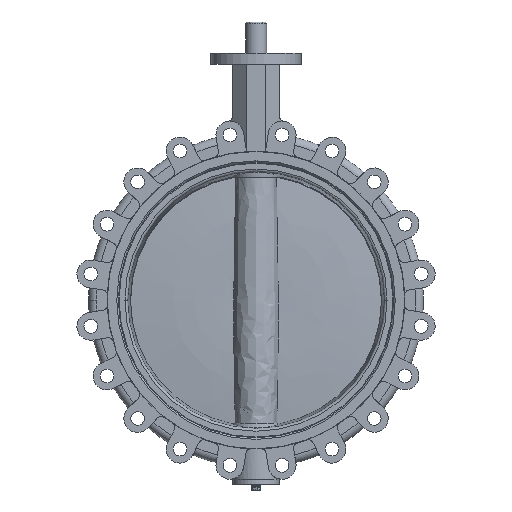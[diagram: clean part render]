
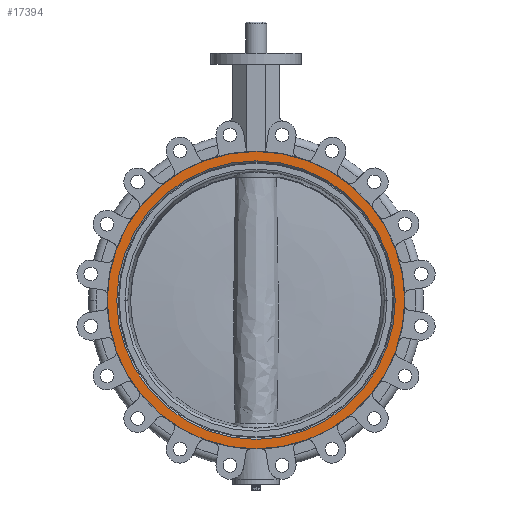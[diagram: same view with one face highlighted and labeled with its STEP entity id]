
A CAD part, left-side view. The second image highlights one B-rep face of the part: STEP entity #17394.
In plain terms, the highlighted planar face has unit normal (-1, 0, 0).
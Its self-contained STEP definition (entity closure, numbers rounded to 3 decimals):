
#818 = CYLINDRICAL_SURFACE('',#819,289.);
#819 = AXIS2_PLACEMENT_3D('',#820,#821,#822);
#820 = CARTESIAN_POINT('',(126.752,0.,
    0.));
#821 = DIRECTION('',(1.,0.,0.));
#822 = DIRECTION('',(0.,1.,0.));
#8719 = VERTEX_POINT('',#8720);
#8720 = CARTESIAN_POINT('',(-63.5,-270.55,0.));
#8727 = CONICAL_SURFACE('',#8728,270.55,0.785);
#8728 = AXIS2_PLACEMENT_3D('',#8729,#8730,#8731);
#8729 = CARTESIAN_POINT('',(-63.5,0.,0.)
  );
#8730 = DIRECTION('',(-1.,0.,0.));
#8731 = DIRECTION('',(0.,-1.,0.));
#8739 = CONICAL_SURFACE('',#8740,270.55,0.785);
#8740 = AXIS2_PLACEMENT_3D('',#8741,#8742,#8743);
#8741 = CARTESIAN_POINT('',(-63.5,0.,0.)
  );
#8742 = DIRECTION('',(-1.,0.,0.));
#8743 = DIRECTION('',(0.,-1.,0.));
#8751 = EDGE_CURVE('',#8719,#8752,#8754,.T.);
#8752 = VERTEX_POINT('',#8753);
#8753 = CARTESIAN_POINT('',(-63.5,270.55,0.));
#8754 = SURFACE_CURVE('',#8755,(#8760,#8767),.PCURVE_S1.);
#8755 = CIRCLE('',#8756,270.55);
#8756 = AXIS2_PLACEMENT_3D('',#8757,#8758,#8759);
#8757 = CARTESIAN_POINT('',(-63.5,0.,0.)
  );
#8758 = DIRECTION('',(1.,0.,0.));
#8759 = DIRECTION('',(0.,1.,0.));
#8760 = PCURVE('',#8727,#8761);
#8761 = DEFINITIONAL_REPRESENTATION('',(#8762),#8766);
#8762 = LINE('',#8763,#8764);
#8763 = CARTESIAN_POINT('',(9.425,0.));
#8764 = VECTOR('',#8765,1.);
#8765 = DIRECTION('',(-1.,0.));
#8766 = ( GEOMETRIC_REPRESENTATION_CONTEXT(2) 
PARAMETRIC_REPRESENTATION_CONTEXT() REPRESENTATION_CONTEXT('2D SPACE',''
  ) );
#8767 = PCURVE('',#8768,#8773);
#8768 = PLANE('',#8769);
#8769 = AXIS2_PLACEMENT_3D('',#8770,#8771,#8772);
#8770 = CARTESIAN_POINT('',(-63.5,0.,289.));
#8771 = DIRECTION('',(-1.,0.,0.));
#8772 = DIRECTION('',(0.,-1.,0.));
#8773 = DEFINITIONAL_REPRESENTATION('',(#8774),#8782);
#8774 = ( BOUNDED_CURVE() B_SPLINE_CURVE(2,(#8775,#8776,#8777,#8778,
#8779,#8780,#8781),.UNSPECIFIED.,.T.,.F.) B_SPLINE_CURVE_WITH_KNOTS((1,2
    ,2,2,2,1),(-2.094,0.,2.094,4.189,
6.283,8.378),.UNSPECIFIED.) CURVE() 
GEOMETRIC_REPRESENTATION_ITEM() RATIONAL_B_SPLINE_CURVE((1.,0.5,1.,0.5,
1.,0.5,1.)) REPRESENTATION_ITEM('') );
#8775 = CARTESIAN_POINT('',(-270.55,-289.));
#8776 = CARTESIAN_POINT('',(-270.55,179.606));
#8777 = CARTESIAN_POINT('',(135.275,-54.697));
#8778 = CARTESIAN_POINT('',(541.1,-289.));
#8779 = CARTESIAN_POINT('',(135.275,-523.303));
#8780 = CARTESIAN_POINT('',(-270.55,-757.606));
#8781 = CARTESIAN_POINT('',(-270.55,-289.));
#8782 = ( GEOMETRIC_REPRESENTATION_CONTEXT(2) 
PARAMETRIC_REPRESENTATION_CONTEXT() REPRESENTATION_CONTEXT('2D SPACE',''
  ) );
#10856 = EDGE_CURVE('',#10857,#10859,#10861,.T.);
#10857 = VERTEX_POINT('',#10858);
#10858 = CARTESIAN_POINT('',(-63.5,289.,0.));
#10859 = VERTEX_POINT('',#10860);
#10860 = CARTESIAN_POINT('',(-63.5,-289.,0.));
#10861 = SURFACE_CURVE('',#10862,(#10867,#10879),.PCURVE_S1.);
#10862 = CIRCLE('',#10863,289.);
#10863 = AXIS2_PLACEMENT_3D('',#10864,#10865,#10866);
#10864 = CARTESIAN_POINT('',(-63.5,0.,0.
    ));
#10865 = DIRECTION('',(1.,0.,0.));
#10866 = DIRECTION('',(0.,1.,0.));
#10867 = PCURVE('',#10868,#10873);
#10868 = CYLINDRICAL_SURFACE('',#10869,289.);
#10869 = AXIS2_PLACEMENT_3D('',#10870,#10871,#10872);
#10870 = CARTESIAN_POINT('',(126.752,0.,
    0.));
#10871 = DIRECTION('',(1.,0.,0.));
#10872 = DIRECTION('',(0.,1.,0.));
#10873 = DEFINITIONAL_REPRESENTATION('',(#10874),#10878);
#10874 = LINE('',#10875,#10876);
#10875 = CARTESIAN_POINT('',(0.,-190.252));
#10876 = VECTOR('',#10877,1.);
#10877 = DIRECTION('',(1.,0.));
#10878 = ( GEOMETRIC_REPRESENTATION_CONTEXT(2) 
PARAMETRIC_REPRESENTATION_CONTEXT() REPRESENTATION_CONTEXT('2D SPACE',''
  ) );
#10879 = PCURVE('',#8768,#10880);
#10880 = DEFINITIONAL_REPRESENTATION('',(#10881),#10889);
#10881 = ( BOUNDED_CURVE() B_SPLINE_CURVE(2,(#10882,#10883,#10884,#10885
    ,#10886,#10887,#10888),.UNSPECIFIED.,.T.,.F.) 
B_SPLINE_CURVE_WITH_KNOTS((1,2,2,2,2,1),(-2.094,0.,
    2.094,4.189,6.283,8.378),
.UNSPECIFIED.) CURVE() GEOMETRIC_REPRESENTATION_ITEM() 
RATIONAL_B_SPLINE_CURVE((1.,0.5,1.,0.5,1.,0.5,1.)) REPRESENTATION_ITEM(
  '') );
#10882 = CARTESIAN_POINT('',(-289.,-289.));
#10883 = CARTESIAN_POINT('',(-289.,211.563));
#10884 = CARTESIAN_POINT('',(144.5,-38.719));
#10885 = CARTESIAN_POINT('',(578.,-289.));
#10886 = CARTESIAN_POINT('',(144.5,-539.281));
#10887 = CARTESIAN_POINT('',(-289.,-789.563));
#10888 = CARTESIAN_POINT('',(-289.,-289.));
#10889 = ( GEOMETRIC_REPRESENTATION_CONTEXT(2) 
PARAMETRIC_REPRESENTATION_CONTEXT() REPRESENTATION_CONTEXT('2D SPACE',''
  ) );
#13337 = EDGE_CURVE('',#10859,#10857,#13338,.T.);
#13338 = SURFACE_CURVE('',#13339,(#13344,#13351),.PCURVE_S1.);
#13339 = CIRCLE('',#13340,289.);
#13340 = AXIS2_PLACEMENT_3D('',#13341,#13342,#13343);
#13341 = CARTESIAN_POINT('',(-63.5,0.,0.
    ));
#13342 = DIRECTION('',(1.,0.,0.));
#13343 = DIRECTION('',(0.,1.,0.));
#13344 = PCURVE('',#818,#13345);
#13345 = DEFINITIONAL_REPRESENTATION('',(#13346),#13350);
#13346 = LINE('',#13347,#13348);
#13347 = CARTESIAN_POINT('',(0.,-190.252));
#13348 = VECTOR('',#13349,1.);
#13349 = DIRECTION('',(1.,0.));
#13350 = ( GEOMETRIC_REPRESENTATION_CONTEXT(2) 
PARAMETRIC_REPRESENTATION_CONTEXT() REPRESENTATION_CONTEXT('2D SPACE',''
  ) );
#13351 = PCURVE('',#8768,#13352);
#13352 = DEFINITIONAL_REPRESENTATION('',(#13353),#13361);
#13353 = ( BOUNDED_CURVE() B_SPLINE_CURVE(2,(#13354,#13355,#13356,#13357
    ,#13358,#13359,#13360),.UNSPECIFIED.,.T.,.F.) 
B_SPLINE_CURVE_WITH_KNOTS((1,2,2,2,2,1),(-2.094,0.,
    2.094,4.189,6.283,8.378),
.UNSPECIFIED.) CURVE() GEOMETRIC_REPRESENTATION_ITEM() 
RATIONAL_B_SPLINE_CURVE((1.,0.5,1.,0.5,1.,0.5,1.)) REPRESENTATION_ITEM(
  '') );
#13354 = CARTESIAN_POINT('',(-289.,-289.));
#13355 = CARTESIAN_POINT('',(-289.,211.563));
#13356 = CARTESIAN_POINT('',(144.5,-38.719));
#13357 = CARTESIAN_POINT('',(578.,-289.));
#13358 = CARTESIAN_POINT('',(144.5,-539.281));
#13359 = CARTESIAN_POINT('',(-289.,-789.563));
#13360 = CARTESIAN_POINT('',(-289.,-289.));
#13361 = ( GEOMETRIC_REPRESENTATION_CONTEXT(2) 
PARAMETRIC_REPRESENTATION_CONTEXT() REPRESENTATION_CONTEXT('2D SPACE',''
  ) );
#17394 = ADVANCED_FACE('',(#17395,#17424),#8768,.T.);
#17395 = FACE_BOUND('',#17396,.T.);
#17396 = EDGE_LOOP('',(#17397,#17398));
#17397 = ORIENTED_EDGE('',*,*,#8751,.T.);
#17398 = ORIENTED_EDGE('',*,*,#17399,.T.);
#17399 = EDGE_CURVE('',#8752,#8719,#17400,.T.);
#17400 = SURFACE_CURVE('',#17401,(#17406,#17417),.PCURVE_S1.);
#17401 = CIRCLE('',#17402,270.55);
#17402 = AXIS2_PLACEMENT_3D('',#17403,#17404,#17405);
#17403 = CARTESIAN_POINT('',(-63.5,0.,0.
    ));
#17404 = DIRECTION('',(1.,0.,0.));
#17405 = DIRECTION('',(0.,1.,0.));
#17406 = PCURVE('',#8768,#17407);
#17407 = DEFINITIONAL_REPRESENTATION('',(#17408),#17416);
#17408 = ( BOUNDED_CURVE() B_SPLINE_CURVE(2,(#17409,#17410,#17411,#17412
    ,#17413,#17414,#17415),.UNSPECIFIED.,.T.,.F.) 
B_SPLINE_CURVE_WITH_KNOTS((1,2,2,2,2,1),(-2.094,0.,
    2.094,4.189,6.283,8.378),
.UNSPECIFIED.) CURVE() GEOMETRIC_REPRESENTATION_ITEM() 
RATIONAL_B_SPLINE_CURVE((1.,0.5,1.,0.5,1.,0.5,1.)) REPRESENTATION_ITEM(
  '') );
#17409 = CARTESIAN_POINT('',(-270.55,-289.));
#17410 = CARTESIAN_POINT('',(-270.55,179.606));
#17411 = CARTESIAN_POINT('',(135.275,-54.697));
#17412 = CARTESIAN_POINT('',(541.1,-289.));
#17413 = CARTESIAN_POINT('',(135.275,-523.303));
#17414 = CARTESIAN_POINT('',(-270.55,-757.606));
#17415 = CARTESIAN_POINT('',(-270.55,-289.));
#17416 = ( GEOMETRIC_REPRESENTATION_CONTEXT(2) 
PARAMETRIC_REPRESENTATION_CONTEXT() REPRESENTATION_CONTEXT('2D SPACE',''
  ) );
#17417 = PCURVE('',#8739,#17418);
#17418 = DEFINITIONAL_REPRESENTATION('',(#17419),#17423);
#17419 = LINE('',#17420,#17421);
#17420 = CARTESIAN_POINT('',(3.142,0.));
#17421 = VECTOR('',#17422,1.);
#17422 = DIRECTION('',(-1.,0.));
#17423 = ( GEOMETRIC_REPRESENTATION_CONTEXT(2) 
PARAMETRIC_REPRESENTATION_CONTEXT() REPRESENTATION_CONTEXT('2D SPACE',''
  ) );
#17424 = FACE_BOUND('',#17425,.T.);
#17425 = EDGE_LOOP('',(#17426,#17427));
#17426 = ORIENTED_EDGE('',*,*,#10856,.F.);
#17427 = ORIENTED_EDGE('',*,*,#13337,.F.);
